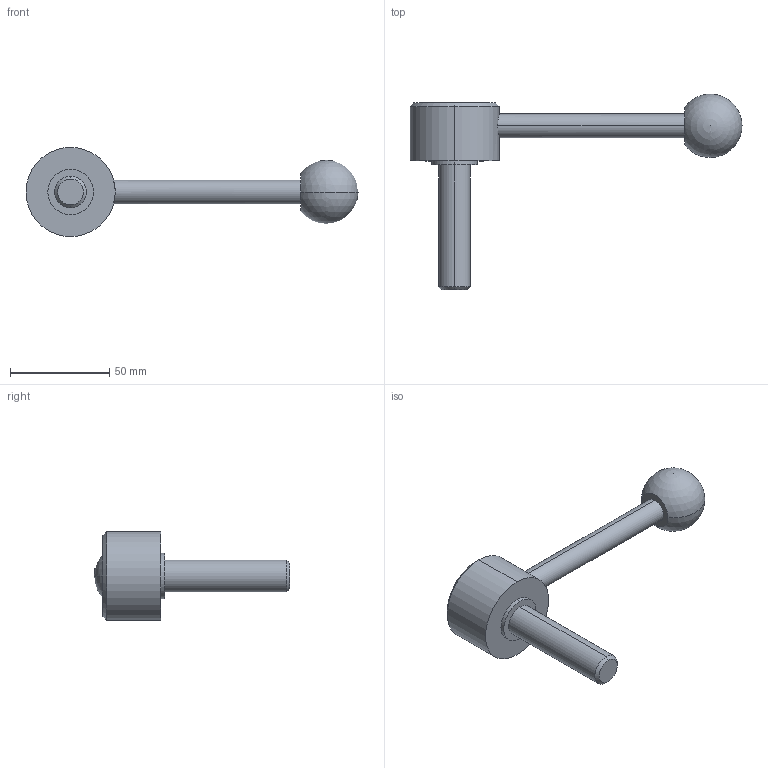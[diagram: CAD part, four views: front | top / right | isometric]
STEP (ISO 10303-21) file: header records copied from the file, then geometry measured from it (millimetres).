
FILE_DESCRIPTION (( 'STEP AP214' ), '1' );
FILE_NAME ('125.5-45-M16-63-D.step', '2020-02-18T11:42:55', ( '' ), ( '' ), 'SwSTEP 2.0', 'SolidWorks 2019', '' );
FILE_SCHEMA (( 'AUTOMOTIVE_DESIGN' ));
Length unit declared in the file: millimetre
Products named in the file (1): 125.5-45-M16-63-D
Bounding box: 167.5 x 98.67 x 45 mm (x, y, z)
Volume: 87092.5 mm3; surface area: 16919 mm2
Topology: 1 solids, 1 shells, 22 faces, 47 edges, 30 vertices
Faces by surface type: cylinder 10, plane 6, cone 4, sphere 2
Entity records: 748 total; most frequent: CARTESIAN_POINT 176, DIRECTION 112, ORIENTED_EDGE 84, AXIS2_PLACEMENT_3D 49, EDGE_CURVE 42, EDGE_LOOP 27, VERTEX_POINT 27, CIRCLE 26
